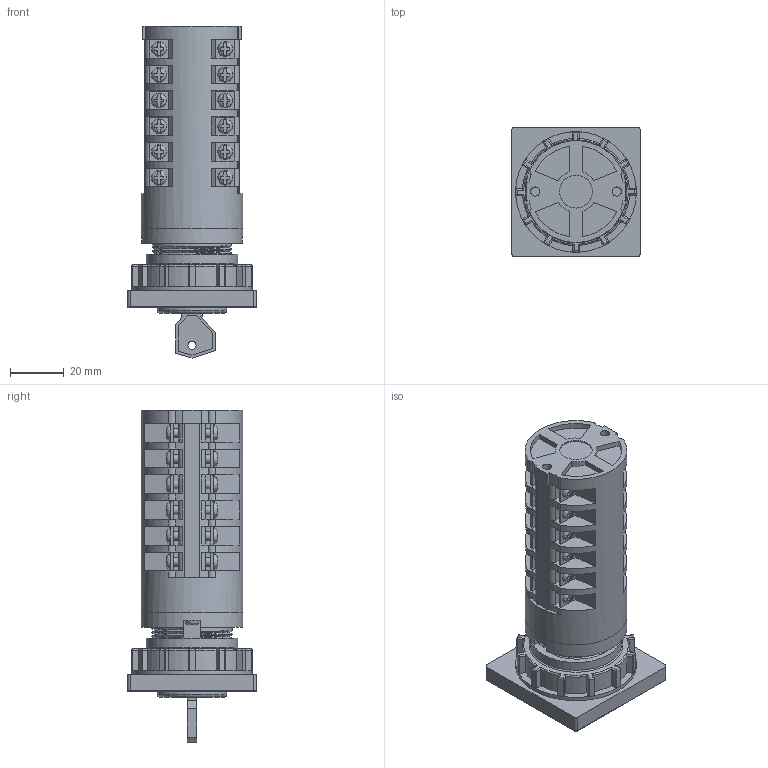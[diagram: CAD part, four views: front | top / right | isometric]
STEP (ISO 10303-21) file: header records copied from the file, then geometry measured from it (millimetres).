
FILE_DESCRIPTION(/* description */ (''),/* implementation_level */ '2;1');
FILE_NAME(/* name */ '4G10-U_wykonanie_S30_6_korpusow.stp',/* time_stamp */ '2021-07-21T08:57:26+02:00',/* author */ (''),/* organization */ (''),/* preprocessor_version */ 'ST-DEVELOPER v18.1',/* originating_system */ 'SIEMENS PLM Software NX 1965',/* authorisation */ '');
FILE_SCHEMA (('AUTOMOTIVE_DESIGN { 1 0 10303 214 3 1 1 1 }'));
Length unit declared in the file: millimetre
Products named in the file (1): 4G10-U_wykonanie_S30_6_korpusow_stp
Bounding box: 48 x 48 x 123.82 mm (x, y, z)
Volume: 112875.9 mm3; surface area: 30241.1 mm2
Topology: 1 solids, 3 shells, 1109 faces, 3000 edges, 1938 vertices
Faces by surface type: plane 809, cylinder 221, bspline 63, torus 16
Full cylindrical faces by diameter (mm): 3 x1, 3.2 x26, 3.3 x2, 3.4 x2, 12.3 x1, 15 x1, 26 x1, 34 x1, 38 x2, 45 x1
Entity records: 40528 total; most frequent: CARTESIAN_POINT 13382, ORIENTED_EDGE 5760, DIRECTION 5390, EDGE_CURVE 2880, VERTEX_POINT 1908, AXIS2_PLACEMENT_3D 1824, LINE 1742, VECTOR 1742
